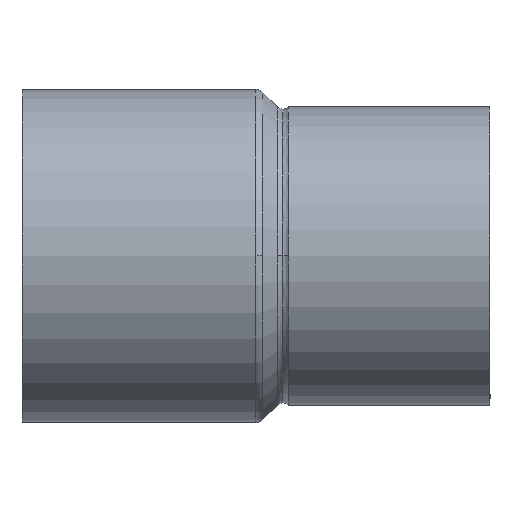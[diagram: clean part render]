
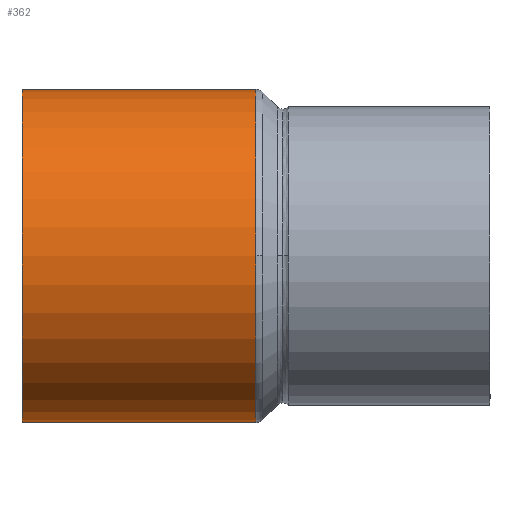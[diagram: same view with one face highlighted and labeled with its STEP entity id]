
A CAD part, top view. The second image highlights one B-rep face of the part: STEP entity #362.
In plain terms, the highlighted cylindrical face has radius 21 mm (diameter 42 mm), a partial arc.
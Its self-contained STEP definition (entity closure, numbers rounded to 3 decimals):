
#312=CARTESIAN_POINT('',(14.735,0.0,0.0));
#313=DIRECTION('',(1.0,0.0,0.0));
#314=DIRECTION('',(0.0,1.0,0.0));
#315=AXIS2_PLACEMENT_3D('',#312,#313,#314);
#316=CYLINDRICAL_SURFACE('',#315,21.0);
#317=CARTESIAN_POINT('',(0.,21.,0.0));
#318=VERTEX_POINT('',#317);
#319=CARTESIAN_POINT('',(29.471,21.,0.0));
#320=VERTEX_POINT('',#319);
#321=CARTESIAN_POINT('',(0.,21.,0.0));
#322=DIRECTION('',(1.0,0.0,0.0));
#323=VECTOR('',#322,29.471);
#324=LINE('',#321,#323);
#325=EDGE_CURVE('',#318,#320,#324,.T.);
#326=ORIENTED_EDGE('',*,*,#325,.F.);
#327=CARTESIAN_POINT('',(0.,-21.,0.));
#328=VERTEX_POINT('',#327);
#329=CARTESIAN_POINT('',(0.,0.0,0.0));
#330=DIRECTION('',(1.0,0.0,0.0));
#331=DIRECTION('',(0.0,1.0,0.0));
#332=AXIS2_PLACEMENT_3D('',#329,#330,#331);
#333=CIRCLE('',#332,21.);
#334=EDGE_CURVE('',#318,#328,#333,.T.);
#335=ORIENTED_EDGE('',*,*,#334,.T.);
#336=CARTESIAN_POINT('',(29.471,-21.,0.));
#337=VERTEX_POINT('',#336);
#338=CARTESIAN_POINT('',(29.471,-21.,0.));
#339=DIRECTION('',(-1.0,0.0,0.0));
#340=VECTOR('',#339,29.471);
#341=LINE('',#338,#340);
#342=EDGE_CURVE('',#337,#328,#341,.T.);
#343=ORIENTED_EDGE('',*,*,#342,.F.);
#344=CARTESIAN_POINT('',(29.471,0.,21.));
#345=VERTEX_POINT('',#344);
#346=CARTESIAN_POINT('',(29.471,0.0,0.0));
#347=DIRECTION('',(1.0,0.0,0.0));
#348=DIRECTION('',(0.0,1.0,0.0));
#349=AXIS2_PLACEMENT_3D('',#346,#347,#348);
#350=CIRCLE('',#349,21.);
#351=EDGE_CURVE('',#345,#337,#350,.T.);
#352=ORIENTED_EDGE('',*,*,#351,.F.);
#353=CARTESIAN_POINT('',(29.471,0.0,0.0));
#354=DIRECTION('',(1.0,0.0,0.0));
#355=DIRECTION('',(0.0,1.0,0.0));
#356=AXIS2_PLACEMENT_3D('',#353,#354,#355);
#357=CIRCLE('',#356,21.);
#358=EDGE_CURVE('',#320,#345,#357,.T.);
#359=ORIENTED_EDGE('',*,*,#358,.F.);
#360=EDGE_LOOP('',(#326,#335,#343,#352,#359));
#361=FACE_OUTER_BOUND('',#360,.T.);
#362=ADVANCED_FACE('',(#361),#316,.T.);
